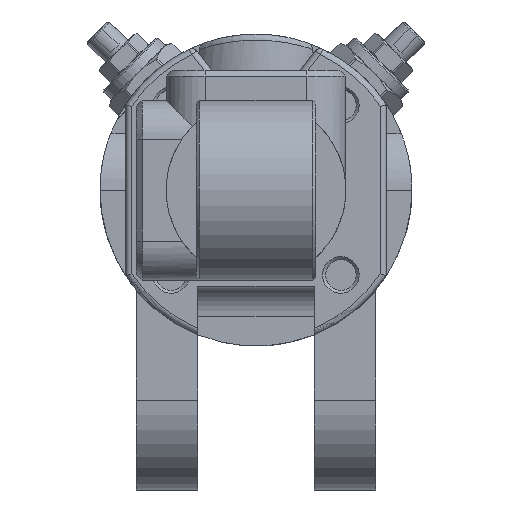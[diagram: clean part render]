
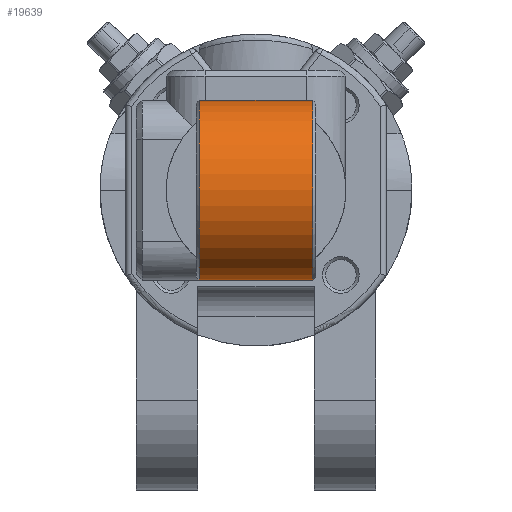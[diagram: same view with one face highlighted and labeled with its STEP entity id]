
A CAD part, front view. The second image highlights one B-rep face of the part: STEP entity #19639.
In plain terms, the highlighted cylindrical face has radius 15 mm (diameter 30 mm), a full revolution.
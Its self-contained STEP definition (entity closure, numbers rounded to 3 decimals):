
#19552=CARTESIAN_POINT('',(9.5,-53.5,0.));
#19553=VERTEX_POINT('',#19552);
#19554=CARTESIAN_POINT('',(9.5,-68.5,0.0));
#19555=DIRECTION('',(1.0,0.0,0.0));
#19556=DIRECTION('',(0.0,-1.0,0.0));
#19557=AXIS2_PLACEMENT_3D('',#19554,#19555,#19556);
#19558=CIRCLE('',#19557,15.0);
#19559=EDGE_CURVE('',#19553,#19553,#19558,.T.);
#19564=CARTESIAN_POINT('',(0.0,-68.5,0.0));
#19565=DIRECTION('',(1.0,0.0,0.0));
#19566=DIRECTION('',(0.0,-1.0,0.0));
#19567=AXIS2_PLACEMENT_3D('',#19564,#19565,#19566);
#19568=CYLINDRICAL_SURFACE('',#19567,15.0);
#19569=CARTESIAN_POINT('',(-9.5,-53.5,0.));
#19570=VERTEX_POINT('',#19569);
#19571=CARTESIAN_POINT('',(-9.5,-68.5,0.0));
#19572=DIRECTION('',(-1.0,0.0,0.0));
#19573=DIRECTION('',(0.0,-1.0,0.0));
#19574=AXIS2_PLACEMENT_3D('',#19571,#19572,#19573);
#19575=CIRCLE('',#19574,15.0);
#19576=EDGE_CURVE('',#19570,#19570,#19575,.T.);
#19577=ORIENTED_EDGE('',*,*,#19576,.F.);
#19578=EDGE_LOOP('',(#19577));
#19579=FACE_OUTER_BOUND('',#19578,.T.);
#19580=CARTESIAN_POINT('',(-9.,-59.5,-12.));
#19581=VERTEX_POINT('',#19580);
#19582=CARTESIAN_POINT('',(-9.0,-59.5,12.));
#19583=VERTEX_POINT('',#19582);
#19584=CARTESIAN_POINT('',(-9.0,-68.5,0.0));
#19585=DIRECTION('',(1.0,0.0,0.0));
#19586=DIRECTION('',(0.0,-1.0,0.0));
#19587=AXIS2_PLACEMENT_3D('',#19584,#19585,#19586);
#19588=CIRCLE('',#19587,15.0);
#19589=EDGE_CURVE('',#19581,#19583,#19588,.T.);
#19590=ORIENTED_EDGE('',*,*,#19589,.F.);
#19591=CARTESIAN_POINT('',(0.0,-68.5,-15.));
#19592=VERTEX_POINT('',#19591);
#19593=CARTESIAN_POINT('',(0.0,-68.5,0.0));
#19594=DIRECTION('',(0.707,0.707,0.0));
#19595=DIRECTION('',(0.707,-0.707,0.0));
#19596=AXIS2_PLACEMENT_3D('',#19593,#19594,#19595);
#19597=ELLIPSE('',#19596,21.213,15.);
#19598=EDGE_CURVE('',#19592,#19581,#19597,.T.);
#19599=ORIENTED_EDGE('',*,*,#19598,.F.);
#19600=CARTESIAN_POINT('',(9.0,-59.5,-12.));
#19601=VERTEX_POINT('',#19600);
#19602=CARTESIAN_POINT('',(0.0,-68.5,0.0));
#19603=DIRECTION('',(-0.707,0.707,0.0));
#19604=DIRECTION('',(-0.707,-0.707,0.0));
#19605=AXIS2_PLACEMENT_3D('',#19602,#19603,#19604);
#19606=ELLIPSE('',#19605,21.213,15.);
#19607=EDGE_CURVE('',#19601,#19592,#19606,.T.);
#19608=ORIENTED_EDGE('',*,*,#19607,.F.);
#19609=CARTESIAN_POINT('',(9.,-59.5,12.));
#19610=VERTEX_POINT('',#19609);
#19611=CARTESIAN_POINT('',(9.,-68.5,0.0));
#19612=DIRECTION('',(-1.0,0.0,0.0));
#19613=DIRECTION('',(0.0,-1.0,0.0));
#19614=AXIS2_PLACEMENT_3D('',#19611,#19612,#19613);
#19615=CIRCLE('',#19614,15.0);
#19616=EDGE_CURVE('',#19610,#19601,#19615,.T.);
#19617=ORIENTED_EDGE('',*,*,#19616,.F.);
#19618=CARTESIAN_POINT('',(0.0,-68.5,15.));
#19619=VERTEX_POINT('',#19618);
#19620=CARTESIAN_POINT('',(0.0,-68.5,0.0));
#19621=DIRECTION('',(-0.707,0.707,0.0));
#19622=DIRECTION('',(-0.707,-0.707,0.0));
#19623=AXIS2_PLACEMENT_3D('',#19620,#19621,#19622);
#19624=ELLIPSE('',#19623,21.213,15.);
#19625=EDGE_CURVE('',#19619,#19610,#19624,.T.);
#19626=ORIENTED_EDGE('',*,*,#19625,.F.);
#19627=CARTESIAN_POINT('',(0.0,-68.5,0.0));
#19628=DIRECTION('',(0.707,0.707,0.0));
#19629=DIRECTION('',(0.707,-0.707,0.0));
#19630=AXIS2_PLACEMENT_3D('',#19627,#19628,#19629);
#19631=ELLIPSE('',#19630,21.213,15.);
#19632=EDGE_CURVE('',#19583,#19619,#19631,.T.);
#19633=ORIENTED_EDGE('',*,*,#19632,.F.);
#19634=EDGE_LOOP('',(#19590,#19599,#19608,#19617,#19626,#19633));
#19635=FACE_BOUND('',#19634,.T.);
#19636=ORIENTED_EDGE('',*,*,#19559,.F.);
#19637=EDGE_LOOP('',(#19636));
#19638=FACE_BOUND('',#19637,.T.);
#19639=ADVANCED_FACE('',(#19579,#19635,#19638),#19568,.T.);
